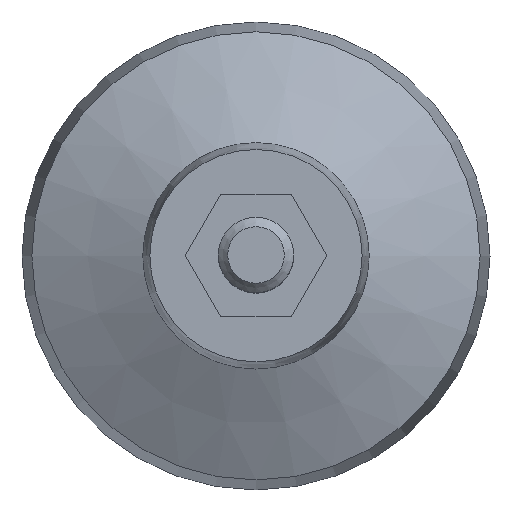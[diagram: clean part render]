
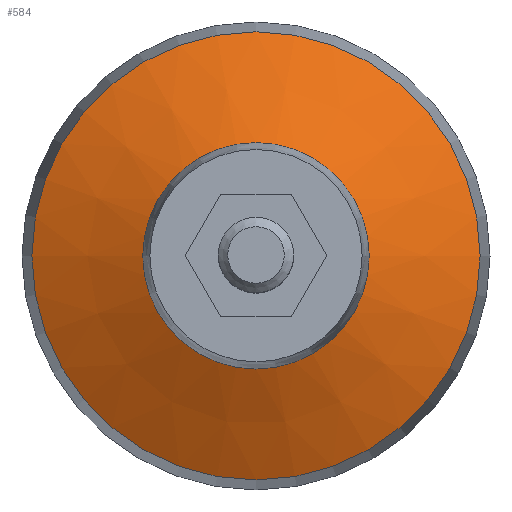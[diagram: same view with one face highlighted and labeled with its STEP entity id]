
A CAD part, top view. The second image highlights one B-rep face of the part: STEP entity #584.
In plain terms, the highlighted conical face has half-angle 64.122 degrees and reference radius 12 mm.
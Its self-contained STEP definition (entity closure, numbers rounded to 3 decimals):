
#414=CARTESIAN_POINT('',(23.75,0.,7.6));
#415=VERTEX_POINT('',#414);
#422=CARTESIAN_POINT('',(0.,0.,7.6));
#423=DIRECTION('',(1.,0.,-0.));
#424=DIRECTION('',(0.,0.,1.));
#425=AXIS2_PLACEMENT_3D('',#422,#424,#423);
#426=CIRCLE('',#425,23.75);
#427=EDGE_CURVE('',#415,#415,#426,.T.);
#439=CARTESIAN_POINT('',(12.,0.,13.3));
#440=VERTEX_POINT('',#439);
#457=CARTESIAN_POINT('',(0.,0.,13.3));
#458=DIRECTION('',(1.,0.,-0.));
#459=DIRECTION('',(0.,-0.,1.));
#460=AXIS2_PLACEMENT_3D('',#457,#459,#458);
#461=CIRCLE('',#460,12.);
#462=EDGE_CURVE('',#440,#440,#461,.T.);
#568=CARTESIAN_POINT('',(0.,0.,13.3));
#569=DIRECTION('',(1.,0.,0.));
#570=DIRECTION('',(0.,0.,-1.));
#571=AXIS2_PLACEMENT_3D('',#568,#570,#569);
#572=CONICAL_SURFACE('',#571,12.,1.119);
#573=CARTESIAN_POINT('',(23.75,0.,7.6));
#574=DIRECTION('',(-0.9,0.,0.436));
#575=VECTOR('',#574,13.06);
#576=LINE('',#573,#575);
#577=EDGE_CURVE('',#415,#440,#576,.T.);
#578=ORIENTED_EDGE('E2',*,*,#577,.F.);
#579=ORIENTED_EDGE('E2',*,*,#427,.F.);
#580=ORIENTED_EDGE('E2',*,*,#577,.T.);
#581=ORIENTED_EDGE('E2',*,*,#462,.T.);
#582=EDGE_LOOP('',(#578,#579,#580,#581));
#583=FACE_OUTER_BOUND('',#582,.F.);
#584=ADVANCED_FACE('F50',(#583),#572,.T.);
